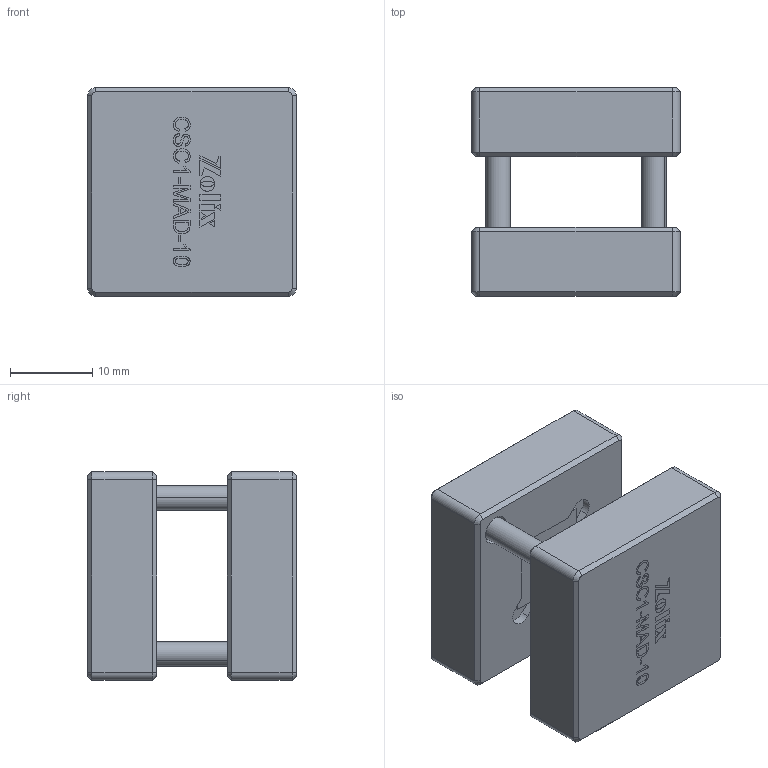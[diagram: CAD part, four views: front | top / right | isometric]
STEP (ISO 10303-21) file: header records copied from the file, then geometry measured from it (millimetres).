
FILE_DESCRIPTION (( 'STEP AP203' ), '1' );
FILE_NAME ('CSC1-MAD-10.STEP', '2024-03-28T03:20:00', ( '' ), ( '' ), 'SwSTEP 2.0', 'SolidWorks 2021', '' );
FILE_SCHEMA (( 'CONFIG_CONTROL_DESIGN' ));
Length unit declared in the file: millimetre
Products named in the file (1): CSC1-MAD-10
Bounding box: 25.4 x 25.4 x 25.4 mm (x, y, z)
Surface area: 4806.6 mm2 (no closed solid volume)
Topology: 0 solids, 8 shells, 312 faces, 1516 edges, 1176 vertices
Faces by surface type: plane 214, bspline 50, cone 24, cylinder 24
Entity records: 19624 total; most frequent: CARTESIAN_POINT 8375, ORIENTED_EDGE 2144, DIRECTION 1898, EDGE_CURVE 1516, VECTOR 1212, LINE 1212, VERTEX_POINT 1176, EDGE_LOOP 366
